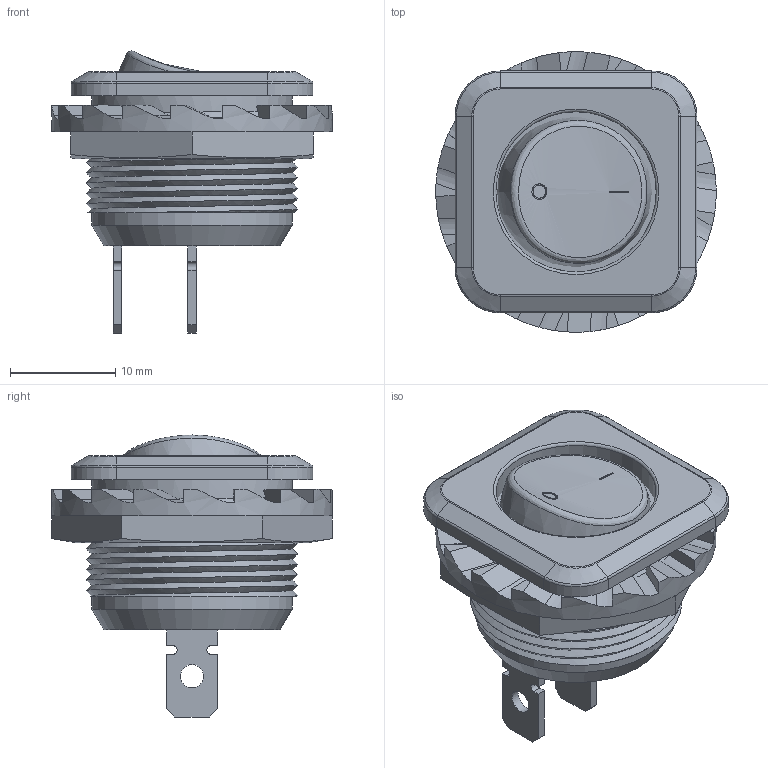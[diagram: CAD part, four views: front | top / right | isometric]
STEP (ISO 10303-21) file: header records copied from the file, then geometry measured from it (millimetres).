
FILE_DESCRIPTION(/* description */ (''),/* implementation_level */ '2;1');
FILE_NAME(/* name */ 'C:\Users\Hani\Desktop\work\RB1-1A-DC-2-B-1\RB1-1A-DC-2-B-1_Rocker Switch.stp',/* time_stamp */ '2020-06-23T18:30:17-07:00',/* author */ ('Hani'),/* organization */ (''),/* preprocessor_version */ 'ST-DEVELOPER v17',/* originating_system */ 'Autodesk Inventor 2019',/* authorisation */ '');
FILE_SCHEMA (('AUTOMOTIVE_DESIGN { 1 0 10303 214 3 1 1 }'));
Length unit declared in the file: inch
Products named in the file (6): Rocker Switch; Mount, Rocker Switch; Botton, Rocker Switch; Nut, Rocker Switch; Switch Body; terminals
Assembly tree (5 placements, depth 2):
  Rocker Switch
    Mount, Rocker Switch
    Botton, Rocker Switch
    Nut, Rocker Switch
    Switch Body
    terminals
Bounding box: 26.67 x 26.67 x 26.82 mm (x, y, z)
Volume: 6843 mm3; surface area: 5225.3 mm2
Topology: 6 solids, 6 shells, 256 faces, 681 edges, 441 vertices
Faces by surface type: plane 126, cylinder 58, bspline 32, cone 31, torus 9
Full cylindrical faces by diameter (mm): 1.587 x3, 2.21 x2, 15.24 x1, 16.383 x1, 19.05 x2, 26.67 x1
Entity records: 10903 total; most frequent: CARTESIAN_POINT 4458, ORIENTED_EDGE 1366, DIRECTION 1220, EDGE_CURVE 683, AXIS2_PLACEMENT_3D 444, VERTEX_POINT 443, LINE 332, VECTOR 332
